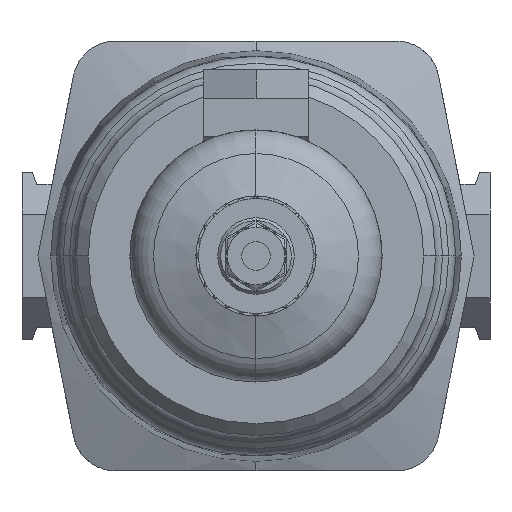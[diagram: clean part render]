
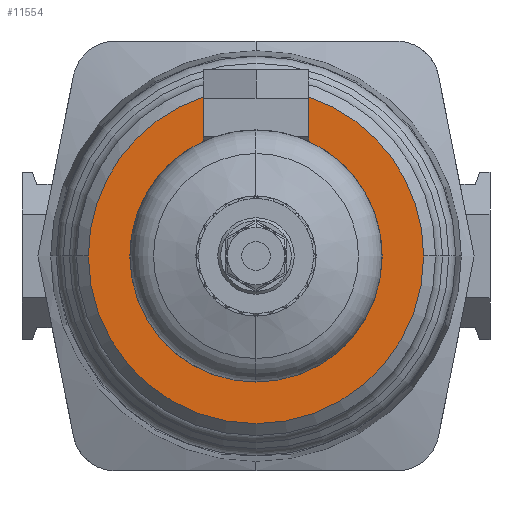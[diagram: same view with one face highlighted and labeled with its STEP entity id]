
A CAD part, front view. The second image highlights one B-rep face of the part: STEP entity #11554.
In plain terms, the highlighted planar face has unit normal (0, -1, 0).
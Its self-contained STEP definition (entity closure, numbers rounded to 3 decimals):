
#110 = VERTEX_POINT ( 'NONE', #2215 ) ;
#115 = VERTEX_POINT ( 'NONE', #1211 ) ;
#295 = CARTESIAN_POINT ( 'NONE',  ( -11., -129., 23.999 ) ) ;
#385 = CARTESIAN_POINT ( 'NONE',  ( 0., -129., 0. ) ) ;
#538 = EDGE_CURVE ( 'NONE', #769, #10900, #11034, .T. ) ;
#769 = VERTEX_POINT ( 'NONE', #2671 ) ;
#910 = AXIS2_PLACEMENT_3D ( 'NONE', #10528, #8446, #10597 ) ;
#1211 = CARTESIAN_POINT ( 'NONE',  ( 0., -129., -26.4 ) ) ;
#1463 = VECTOR ( 'NONE', #7078, 1000. ) ;
#1494 = ORIENTED_EDGE ( 'NONE', *, *, #1847, .T. ) ;
#1767 = CIRCLE ( 'NONE', #910, 26.4 ) ;
#1789 = CARTESIAN_POINT ( 'NONE',  ( 35.1, -129., 0. ) ) ;
#1847 = EDGE_CURVE ( 'NONE', #110, #3783, #8938, .T. ) ;
#2089 = CARTESIAN_POINT ( 'NONE',  ( 35.1, -129., 0. ) ) ;
#2215 = CARTESIAN_POINT ( 'NONE',  ( 11., -129., 33.332 ) ) ;
#2671 = CARTESIAN_POINT ( 'NONE',  ( -11., -129., 33.332 ) ) ;
#2849 = CARTESIAN_POINT ( 'NONE',  ( 11., -129., 0. ) ) ;
#2999 = CARTESIAN_POINT ( 'NONE',  ( -11., -129., 0. ) ) ;
#3294 = AXIS2_PLACEMENT_3D ( 'NONE', #3745, #9090, #3936 ) ;
#3736 = CARTESIAN_POINT ( 'NONE',  ( 0., -129., 0. ) ) ;
#3745 = CARTESIAN_POINT ( 'NONE',  ( 0., -129., 0. ) ) ;
#3783 = VERTEX_POINT ( 'NONE', #9377 ) ;
#3871 = ORIENTED_EDGE ( 'NONE', *, *, #5524, .T. ) ;
#3936 = DIRECTION ( 'NONE',  ( 0., 0., -1. ) ) ;
#4015 = CIRCLE ( 'NONE', #8715, 35.1 ) ;
#4204 = PLANE ( 'NONE',  #11479 ) ;
#4282 = AXIS2_PLACEMENT_3D ( 'NONE', #3736, #8180, #5875 ) ;
#4390 = EDGE_CURVE ( 'NONE', #5355, #6544, #8338, .T. ) ;
#4434 = DIRECTION ( 'NONE',  ( 1., 0., 0. ) ) ;
#4456 = EDGE_CURVE ( 'NONE', #115, #3783, #1767, .T. ) ;
#5355 = VERTEX_POINT ( 'NONE', #7798 ) ;
#5524 = EDGE_CURVE ( 'NONE', #6544, #110, #11371, .T. ) ;
#5647 = CIRCLE ( 'NONE', #3294, 26.4 ) ;
#5875 = DIRECTION ( 'NONE',  ( 1., 0., 0. ) ) ;
#6149 = DIRECTION ( 'NONE',  ( 0., 1., 0. ) ) ;
#6340 = FACE_OUTER_BOUND ( 'NONE', #11244, .T. ) ;
#6444 = VECTOR ( 'NONE', #11010, 1000. ) ;
#6544 = VERTEX_POINT ( 'NONE', #1789 ) ;
#6638 = DIRECTION ( 'NONE',  ( 0., -1., 0. ) ) ;
#7078 = DIRECTION ( 'NONE',  ( 0., 0., -1. ) ) ;
#7798 = CARTESIAN_POINT ( 'NONE',  ( -35.1, -129., 0. ) ) ;
#7951 = ORIENTED_EDGE ( 'NONE', *, *, #12357, .T. ) ;
#8122 = DIRECTION ( 'NONE',  ( 0., -1., 0. ) ) ;
#8180 = DIRECTION ( 'NONE',  ( 0., -1., 0. ) ) ;
#8279 = DIRECTION ( 'NONE',  ( 1., 0., 0. ) ) ;
#8338 = CIRCLE ( 'NONE', #4282, 35.1 ) ;
#8446 = DIRECTION ( 'NONE',  ( 0., -1., 0. ) ) ;
#8715 = AXIS2_PLACEMENT_3D ( 'NONE', #385, #6638, #4434 ) ;
#8938 = LINE ( 'NONE', #2849, #6444 ) ;
#9004 = CARTESIAN_POINT ( 'NONE',  ( 0., -129., 0. ) ) ;
#9090 = DIRECTION ( 'NONE',  ( 0., -1., 0. ) ) ;
#9377 = CARTESIAN_POINT ( 'NONE',  ( 11., -129., 23.999 ) ) ;
#9801 = EDGE_CURVE ( 'NONE', #10900, #115, #5647, .T. ) ;
#10528 = CARTESIAN_POINT ( 'NONE',  ( 0., -129., 0. ) ) ;
#10597 = DIRECTION ( 'NONE',  ( 0., 0., -1. ) ) ;
#10900 = VERTEX_POINT ( 'NONE', #295 ) ;
#10955 = AXIS2_PLACEMENT_3D ( 'NONE', #9004, #8122, #12256 ) ;
#11010 = DIRECTION ( 'NONE',  ( 0., 0., -1. ) ) ;
#11034 = LINE ( 'NONE', #2999, #1463 ) ;
#11244 = EDGE_LOOP ( 'NONE', ( #1494, #13175, #12239, #11572, #7951, #11269, #3871 ) ) ;
#11269 = ORIENTED_EDGE ( 'NONE', *, *, #4390, .T. ) ;
#11371 = CIRCLE ( 'NONE', #10955, 35.1 ) ;
#11479 = AXIS2_PLACEMENT_3D ( 'NONE', #2089, #6149, #8279 ) ;
#11554 = ADVANCED_FACE ( 'NONE', ( #6340 ), #4204, .F. ) ;
#11572 = ORIENTED_EDGE ( 'NONE', *, *, #538, .F. ) ;
#12239 = ORIENTED_EDGE ( 'NONE', *, *, #9801, .F. ) ;
#12256 = DIRECTION ( 'NONE',  ( 1., 0., 0. ) ) ;
#12357 = EDGE_CURVE ( 'NONE', #769, #5355, #4015, .T. ) ;
#13175 = ORIENTED_EDGE ( 'NONE', *, *, #4456, .F. ) ;
